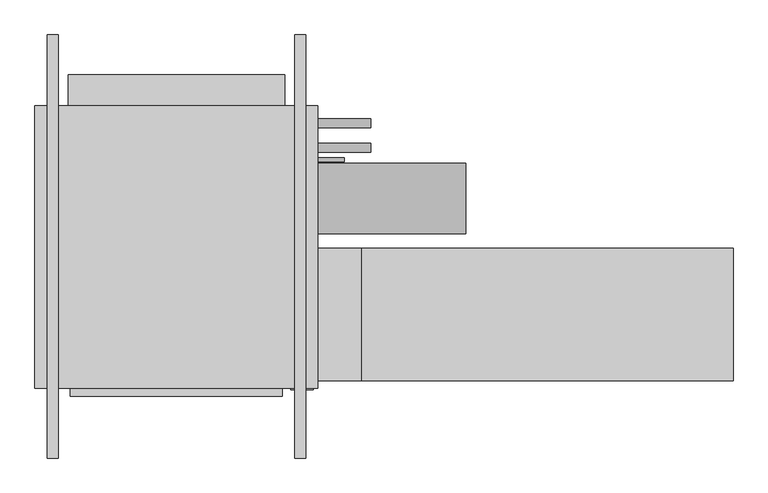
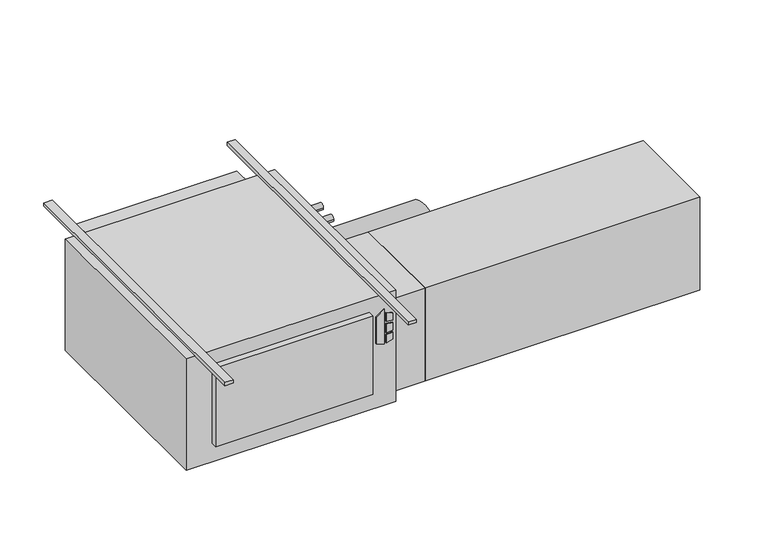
"""IFC4 building model written with IfcOpenShell, lengths in millimetres: proxy geometry."""

from ifc_helpers import new_model, si_unit, point, frame, frame_2d, origin, origin_with_axes, place, context, project, spatial, polyline, circle_curve, trimmed, segment, composite_curve, outline, extrude, source, transform, mapped, element, save


def mechanical_equipment_76f7c0e1(model_context):
    return source(origin(), model_context, "Body", "SweptSolid", [
        extrude(outline(polyline([(-193.2519297, 481.0868862), (-203.2, 513.2602728), (-61.0290756, 513.2602728), (-84.0510817, 481.0868862), (-193.2519297, 481.0868862)])), frame((0.0, -647.7, 0.0), z_axis=(0.0, 1.0, 0.0), x_axis=(0.0, 0.0, 1.0)), (0.0, 0.0, 1.0), 3.175),
        extrude(outline(polyline([(-114.2526443, 520.0186058), (-117.4550368, 546.1), (-88.2261958, 546.1), (-80.1617807, 520.0186058), (-114.2526443, 520.0186058)])), frame((0.0, -647.7, 0.0), z_axis=(0.0, 1.0, 0.0), x_axis=(0.0, 0.0, 1.0)), (0.0, 0.0, 1.0), 3.175),
        extrude(outline(polyline([(-166.1161712, 546.1), (-169.7816721, 520.0186058), (-203.2, 520.0186058), (-194.5657628, 546.1), (-166.1161712, 546.1)])), frame((0.0, -647.7, 0.0), z_axis=(0.0, 1.0, 0.0), x_axis=(0.0, 0.0, 1.0)), (0.0, 0.0, 1.0), 3.175),
        extrude(outline(polyline([(-126.8010097, 546.1), (-124.5191834, 520.0186058), (-160.4567319, 520.0186058), (-157.7154669, 546.1), (-126.8010097, 546.1)])), frame((0.0, -647.7, 0.0), z_axis=(0.0, 1.0, 0.0), x_axis=(0.0, 0.0, 1.0)), (0.0, 0.0, 1.0), 3.175),
        extrude(outline(polyline([(457.2, -666.877), (-152.4, -666.877), (-152.4, -644.525), (457.2, -644.525), (457.2, -666.877)])), frame((0.0, 0.0, -381.0), z_axis=(0.0, 0.0, 1.0), x_axis=(1.0, 0.0, 0.0)), (0.0, 0.0, 1.0), 323.85),
        extrude(outline(polyline([(1752.6, -241.3), (1752.6, -622.3), (685.8, -622.3), (685.8, -241.3), (1752.6, -241.3)])), frame((0.0, 0.0, -431.8), z_axis=(0.0, 0.0, 1.0), x_axis=(1.0, 0.0, 0.0)), (0.0, 0.0, 1.0), 381.0),
        extrude(outline(polyline([(685.8, -241.3), (685.8, -622.3), (558.8, -622.3), (558.8, -241.3), (685.8, -241.3)])), frame((0.0, 0.0, -431.8), z_axis=(0.0, 0.0, 1.0), x_axis=(1.0, 0.0, 0.0)), (0.0, 0.0, 1.0), 381.0),
        extrude(outline(composite_curve([segment(trimmed(circle_curve(frame_2d((117.475, -171.45)), 12.7), [point((130.175, -171.45))], [point((104.775, -171.45))], False, "CARTESIAN"), True, "CONTINUOUS"), segment(trimmed(circle_curve(frame_2d((117.475, -171.45)), 12.7), [point((104.775, -171.45))], [point((130.175, -171.45))], False, "CARTESIAN"), True, "CONTINUOUS")], self_intersect=False)), frame((558.8, 0.0, 0.0), z_axis=(1.0, 0.0, 0.0), x_axis=(0.0, 1.0, 0.0)), (0.0, 0.0, 1.0), 152.4),
        extrude(outline(composite_curve([segment(trimmed(circle_curve(frame_2d((47.625, -177.8)), 12.7), [point((60.325, -177.8))], [point((34.925, -177.8))], False, "CARTESIAN"), True, "CONTINUOUS"), segment(trimmed(circle_curve(frame_2d((47.625, -177.8)), 12.7), [point((34.925, -177.8))], [point((60.325, -177.8))], False, "CARTESIAN"), True, "CONTINUOUS")], self_intersect=False)), frame((558.8, 0.0, 0.0), z_axis=(1.0, 0.0, 0.0), x_axis=(0.0, 1.0, 0.0)), (0.0, 0.0, 1.0), 152.4),
        extrude(outline(composite_curve([segment(trimmed(circle_curve(frame_2d((-98.4896516, -228.6360165)), 101.6), [point((3.1103484, -228.6360165))], [point((-200.0896516, -228.6360165))], False, "CARTESIAN"), True, "CONTINUOUS"), segment(trimmed(circle_curve(frame_2d((-98.4896516, -228.6360165)), 101.6), [point((-200.0896516, -228.6360165))], [point((3.1103484, -228.6360165))], False, "CARTESIAN"), True, "CONTINUOUS")], self_intersect=False)), frame((558.8, 0.0, 0.0), z_axis=(1.0, 0.0, 0.0), x_axis=(0.0, 1.0, 0.0)), (0.0, 0.0, 1.0), 425.45),
        extrude(outline(composite_curve([segment(trimmed(circle_curve(frame_2d((12.7, -409.575)), 6.35), [point((19.05, -409.575))], [point((6.35, -409.575))], False, "CARTESIAN"), True, "CONTINUOUS"), segment(trimmed(circle_curve(frame_2d((12.7, -409.575)), 6.35), [point((6.35, -409.575))], [point((19.05, -409.575))], False, "CARTESIAN"), True, "CONTINUOUS")], self_intersect=False)), frame((558.8, 0.0, 0.0), z_axis=(1.0, 0.0, 0.0), x_axis=(0.0, 1.0, 0.0)), (0.0, 0.0, 1.0), 76.2),
        extrude(outline(polyline([(558.8, 168.275), (558.8, -644.525), (-254.0, -644.525), (-254.0, 168.275), (558.8, 168.275)])), frame((0.0, 0.0, -457.2), z_axis=(0.0, 0.0, 1.0), x_axis=(1.0, 0.0, 0.0)), (0.0, 0.0, 1.0), 457.2),
        extrude(outline(polyline([(-158.75, 257.175), (463.55, 257.175), (463.55, 168.275), (-158.75, 168.275), (-158.75, 257.175)])), frame((0.0, 0.0, -381.0), z_axis=(0.0, 0.0, 1.0), x_axis=(1.0, 0.0, 0.0)), (0.0, 0.0, 1.0), 355.6),
        extrude(outline(polyline([(-187.325, 371.475), (-187.325, -844.677), (-219.075, -844.677), (-219.075, 371.475), (-187.325, 371.475)])), origin_with_axes(), (0.0, 0.0, 1.0), 12.7),
        extrude(outline(polyline([(523.875, 371.475), (523.875, -844.677), (492.125, -844.677), (492.125, 371.475), (523.875, 371.475)])), origin_with_axes(), (0.0, 0.0, 1.0), 12.7),
    ])


if __name__ == "__main__":
    model = new_model("IFC4")
    model_context = context("Model", 3, world=origin())
    ifc_project = project(units=[si_unit("LENGTHUNIT", "METRE", prefix="MILLI")], contexts=[model_context])
    site = spatial("IfcSite", under=ifc_project)
    building = spatial("IfcBuilding", under=site)
    placement = place(None, origin())
    mechanical_equipment_shape = mechanical_equipment_76f7c0e1(model_context)
    element("IfcBuildingElementProxy", 1, Name="High_Capacity_Horizontal_Cabinet_Fan_Coil_Unit_-_HTY_-_IEC_-_2-Pipe_WO-Attenuator_RH Side_2022 : Size 10 - 277v/60Hz/1Ph - 8/0 Coil - 8\" AirIn", ObjectType="High_Capacity_Horizontal_Cabinet_Fan_Coil_Unit_-_HTY_-_IEC_-_2-Pipe_WO-Attenuator_RH Side_2022 : Size 10 - 277v/60Hz/1Ph - 8/0 Coil - 8\" AirIn", at=placement, inside=building, context=model_context, shape_type="MappedRepresentation", body=[
        mapped(mechanical_equipment_shape, transform((0.0, 0.0, 0.0), x_axis=(1.0, 0.0, 0.0), y_axis=(0.0, 1.0, 0.0), z_axis=(0.0, 0.0, 1.0))),
    ])
    save(model, "model.ifc")
